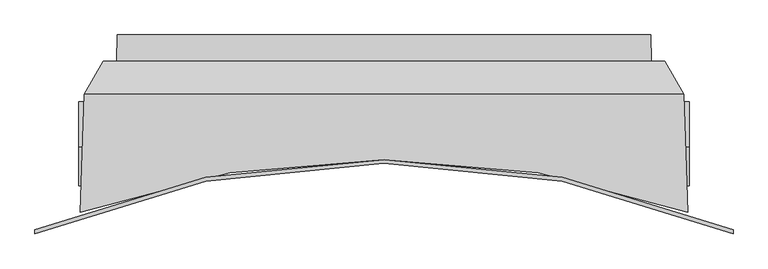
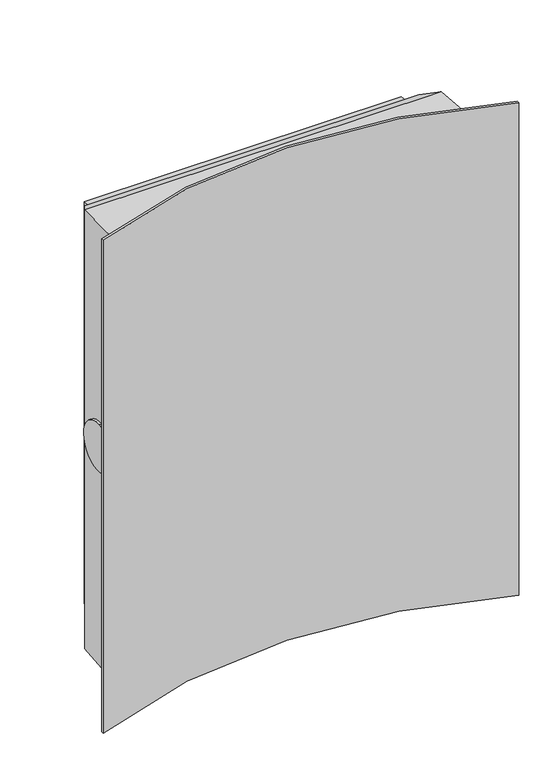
"""IFC4 building model written with IfcOpenShell, lengths in millimetres: proxy geometry, SU.900x1200ManwayRiserAdapter.3000."""

from ifc_helpers import new_model, si_unit, frame, origin, place, context, project, spatial, polyline, circle_curve, ellipse_curve, source, transform, mapped, element, save
from ifc_brep_helpers import plane_surface, cylinder_surface, revolved_surface, advanced_brep


def generic_models_ff2e7f39(model_context):
    return source(origin(), model_context, "Body", "AdvancedBrep", [
        advanced_brep(
        [(498.8644366, -174.4226099, -69.7774514), (506.0, -174.4226099, -69.7774514), (506.0, -185.5773901, 69.7774514), (499.2539702, -185.5773901, 69.7774514), (-506.0, -174.4226099, -69.7774514), (-498.8644366, -174.4226099, -69.7774514), (-499.2539702, -185.5773901, 69.7774514), (-506.0, -185.5773901, 69.7774514), (-496.206021, -98.2955463, -646.206021), (-503.0244223, -293.5490136, -653.0244223), (-503.0244223, -293.5490136, 653.0244223), (-496.206021, -98.2955463, 646.206021), (-496.6147495, -110.0, 0.0), (503.0244223, -293.5490136, -653.0244223), (496.206021, -98.2955463, -646.206021), (496.206021, -98.2955463, 646.206021), (503.0244223, -293.5490136, 653.0244223), (496.6147495, -110.0, 0.0), (578.2496957, -322.6277595, -725.0), (-578.2496957, -322.6277595, -725.0), (-578.2496957, -322.6277595, 725.0), (578.2496957, -322.6277595, 725.0), (-464.8584727, -44.0, -614.8584727), (464.8584727, -44.0, -614.8584727), (464.8584727, -44.0, 614.8584727), (-464.8584727, -44.0, 614.8584727), (443.0401711, -44.0, -593.0401711), (443.0401711, -44.0, 593.0401711), (-443.0401711, -44.0, 593.0401711), (-443.0401711, -44.0, -593.0401711), (441.5036573, 0.0, 591.5036573), (441.5036573, 0.0, -591.5036573), (-441.5036573, 0.0, -591.5036573), (-441.5036573, 0.0, 591.5036573), (578.2496957, -329.1326398, -725.0), (578.2496957, -329.1326398, 725.0), (-578.2496957, -329.1326398, 725.0), (-578.2496957, -329.1326398, -725.0)],
        [
            (0, 1),
            (1, 2, circle_curve(frame((506.0, -180.0, 0.0), z_axis=(-1.0, 0.0, 0.0), x_axis=(0.0, 0.07967700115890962, -0.99682073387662)), 70.0)),
            (2, 3),
            (3, 0, ellipse_curve(frame((499.0592034, -180.0, 0.0), z_axis=(0.9993908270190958, 0.03489949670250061, 0.0), x_axis=(0.03489949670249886, -0.9993908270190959, 0.0)), 70.0426681, 70.0)),
            (4, 5),
            (5, 6, ellipse_curve(frame((-499.0592034, -180.0, 0.0), z_axis=(-0.9993908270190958, 0.034899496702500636, 0.0), x_axis=(0.03489949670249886, 0.9993908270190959, 0.0)), 70.0426681, 70.0)),
            (6, 7),
            (7, 4, circle_curve(frame((-506.0, -180.0, 0.0), z_axis=(1.0, 0.0, 0.0), x_axis=(0.0, 0.07967700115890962, -0.99682073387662)), 70.0)),
            (8, 9),
            (9, 10),
            (10, 11),
            (11, 8),
            (5, 12, ellipse_curve(frame((-499.0592034, -180.0, 0.0), z_axis=(0.9993908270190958, -0.034899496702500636, 0.0), x_axis=(0.03489949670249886, 0.9993908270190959, 0.0)), 70.0426681, 70.0)),
            (12, 6, ellipse_curve(frame((-499.0592034, -180.0, 0.0), z_axis=(0.9993908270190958, -0.034899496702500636, 0.0), x_axis=(0.03489949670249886, 0.9993908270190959, 0.0)), 70.0426681, 70.0)),
            (4, 7, circle_curve(frame((-506.0, -180.0, 0.0), z_axis=(1.0, 0.0, 0.0), x_axis=(0.0, 0.07967700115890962, -0.99682073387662)), 70.0)),
            (13, 14),
            (14, 15),
            (15, 16),
            (16, 13),
            (17, 0, ellipse_curve(frame((499.0592034, -180.0, 0.0), z_axis=(-0.9993908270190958, -0.03489949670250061, 0.0), x_axis=(0.03489949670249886, -0.9993908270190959, 0.0)), 70.0426681, 70.0)),
            (3, 17, ellipse_curve(frame((499.0592034, -180.0, 0.0), z_axis=(-0.9993908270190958, -0.03489949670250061, 0.0), x_axis=(0.03489949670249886, -0.9993908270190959, 0.0)), 70.0426681, 70.0)),
            (2, 1, circle_curve(frame((506.0, -180.0, 0.0), z_axis=(-1.0, 0.0, 0.0), x_axis=(0.0, 0.07967700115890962, -0.99682073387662)), 70.0)),
            (13, 9, ellipse_curve(frame((0.0, -1706.6896402, -702.3723804), z_axis=(0.0, -0.034899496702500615, 0.9993908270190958), x_axis=(0.0, 0.9993908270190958, 0.03489949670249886)), 1500.9143164, 1500.0)),
            (8, 14),
            (15, 11),
            (10, 16, ellipse_curve(frame((0.0, -1706.6896402, 702.3723804), z_axis=(0.0, -0.03489949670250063, -0.9993908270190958), x_axis=(0.0, -0.9993908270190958, 0.034899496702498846)), 1500.9143164, 1500.0)),
            (18, 19, circle_curve(frame((0.0, -1706.6896402, -725.0), z_axis=(0.0, 0.0, 1.0), x_axis=(0.38549979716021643, 0.9227079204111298, 0.0)), 1500.0)),
            (19, 20),
            (20, 21, circle_curve(frame((0.0, -1706.6896402, 725.0), z_axis=(0.0, 0.0, -1.0), x_axis=(0.38549979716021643, 0.9227079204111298, 0.0)), 1500.0)),
            (21, 18),
            (8, 22),
            (22, 23),
            (23, 14),
            (23, 24),
            (24, 15),
            (22, 25),
            (25, 24),
            (26, 27),
            (27, 28),
            (28, 29),
            (29, 26),
            (25, 11),
            (30, 31),
            (31, 32),
            (32, 33),
            (33, 30),
            (30, 27),
            (26, 31),
            (29, 32),
            (33, 28),
            (34, 35),
            (35, 36, circle_curve(frame((0.0, -1706.6896402, 725.0), z_axis=(0.0, 0.0, 1.0), x_axis=(-0.3870479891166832, -0.9220595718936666, 0.0)), 1494.0)),
            (36, 37),
            (37, 34, circle_curve(frame((0.0, -1706.6896402, -725.0), z_axis=(0.0, 0.0, -1.0), x_axis=(-0.3870479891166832, -0.9220595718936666, 0.0)), 1494.0)),
            (34, 18),
            (21, 35),
            (19, 37),
            (36, 20),
        ],
        [
            cylinder_surface(frame((0.0, -180.0, 0.0), z_axis=(1.0, 0.0, 0.0), x_axis=(0.0, 0.07967700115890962, -0.99682073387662)), 70.0),
            plane_surface(frame((-496.206021, -98.2955463, -541.5), z_axis=(-0.9993908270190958, 0.034899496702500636, 0.0), x_axis=(-0.034899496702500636, -0.9993908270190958, 0.0))),
            plane_surface(frame((496.206021, -98.2955463, 541.5), z_axis=(0.9993908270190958, 0.03489949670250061, 0.0), x_axis=(0.03489949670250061, -0.9993908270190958, 0.0))),
            plane_surface(frame((506.0, -205.0, 0.0), z_axis=(1.0, 0.0, 0.0), x_axis=(0.0, 0.0, -1.0))),
            plane_surface(frame((-506.0, -205.0, 0.0), z_axis=(-1.0, 0.0, 0.0), x_axis=(0.0, 0.0, -1.0))),
            plane_surface(frame((391.5, -98.2955463, -646.206021), z_axis=(0.0, 0.034899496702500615, -0.9993908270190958), x_axis=(0.0, -0.9993908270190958, -0.034899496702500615))),
            plane_surface(frame((-391.5, -98.2955463, 646.206021), z_axis=(0.0, 0.03489949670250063, 0.9993908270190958), x_axis=(0.0, -0.9993908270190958, 0.03489949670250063))),
            cylinder_surface(frame((0.0, -1706.6896402, 0.0), z_axis=(0.0, 0.0, 0.9999999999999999), x_axis=(0.38549979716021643, 0.9227079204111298, 0.0)), 1500.0),
            plane_surface(frame((391.5, -44.0, -614.8584727), z_axis=(0.0, 0.49999999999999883, -0.8660254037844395), x_axis=(0.0, -0.8660254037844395, -0.49999999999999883))),
            plane_surface(frame((464.8584727, -44.0, 541.5), z_axis=(0.8660254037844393, 0.49999999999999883, 0.0), x_axis=(0.49999999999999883, -0.8660254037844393, 0.0))),
            plane_surface(frame((391.5, -44.0, -593.0401711), z_axis=(0.0, 1.0, 0.0), x_axis=(0.0, 0.0, -1.0))),
            plane_surface(frame((-391.5, -44.0, 614.8584727), z_axis=(0.0, 0.49999999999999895, 0.8660254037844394), x_axis=(0.0, -0.8660254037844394, 0.49999999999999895))),
            plane_surface(frame((-464.8584727, -44.0, -541.5), z_axis=(-0.8660254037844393, 0.49999999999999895, 0.0), x_axis=(-0.49999999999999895, -0.8660254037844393, 0.0))),
            plane_surface(frame((391.5, 0.0, -585.5), z_axis=(0.0, 1.0, 0.0), x_axis=(0.0, 0.0, -1.0))),
            plane_surface(frame((441.5036573, 0.0, 541.5), z_axis=(0.999390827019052, 0.03489949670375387, 0.0), x_axis=(0.03489949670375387, -0.999390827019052, 0.0))),
            plane_surface(frame((391.5, 0.0, -591.5036573), z_axis=(0.0, 0.03489949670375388, -0.999390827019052), x_axis=(0.0, -0.999390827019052, -0.03489949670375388))),
            plane_surface(frame((-391.5, 0.0, 591.5036573), z_axis=(0.0, 0.03489949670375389, 0.999390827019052), x_axis=(0.0, -0.999390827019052, 0.03489949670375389))),
            plane_surface(frame((-441.5036573, 0.0, -541.5), z_axis=(-0.999390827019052, 0.0348994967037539, 0.0), x_axis=(-0.0348994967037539, -0.999390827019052, 0.0))),
            revolved_surface(polyline([(-578.2496957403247, -3084.246640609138, 724.9999999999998), (-578.2496957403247, -3084.246640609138, -724.9999999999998)]), (0.0, -1706.6896402, 0.0), (0.0, 0.0, 0.9999999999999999)),
            plane_surface(frame((578.2496957, -329.1326398, 0.0), z_axis=(1.0, 0.0, 0.0), x_axis=(0.0, 1.0, 0.0))),
            plane_surface(frame((-578.2496957, -322.6277595, 0.0), z_axis=(-1.0, 0.0, 0.0), x_axis=(0.0, -1.0, 0.0))),
            plane_surface(frame((0.0, -267.91114, 725.0), z_axis=(0.0, 0.0, 1.0), x_axis=(1.0, 0.0, 0.0))),
            plane_surface(frame((0.0, -267.91114, -725.0), z_axis=(0.0, 0.0, -1.0), x_axis=(1.0, 0.0, 0.0))),
        ],
        [
            (0, [[1, 2, 3, 4]]),
            (0, [[5, 6, 7, 8]]),
            (1, [[9, 10, 11, 12], [13, 14, -6]]),
            (0, [[-5, 15, -7, -14, -13]]),
            (2, [[16, 17, 18, 19], [20, -4, 21]]),
            (0, [[-1, -20, -21, -3, 22]]),
            (3, [[-2, -22]]),
            (4, [[-15, -8]]),
            (5, [[-16, 23, -9, 24]]),
            (6, [[-18, 25, -11, 26]]),
            (7, [[27, 28, 29, 30], [-23, -19, -26, -10]]),
            (8, [[-24, 31, 32, 33]]),
            (9, [[-17, -33, 34, 35]]),
            (10, [[-32, 36, 37, -34], [38, 39, 40, 41]]),
            (11, [[-25, -35, -37, 42]]),
            (12, [[-12, -42, -36, -31]]),
            (13, [[43, 44, 45, 46]]),
            (14, [[-43, 47, -38, 48]]),
            (15, [[-48, -41, 49, -44]]),
            (16, [[-46, 50, -39, -47]]),
            (17, [[-45, -49, -40, -50]]),
            (18, [[51, 52, 53, 54]]),
            (19, [[-51, 55, -30, 56]]),
            (20, [[-28, 57, -53, 58]]),
            (21, [[-56, -29, -58, -52]]),
            (22, [[-57, -27, -55, -54]]),
        ],
    ),
    ])


if __name__ == "__main__":
    model = new_model("IFC4")
    model_context = context("Model", 3, world=origin())
    ifc_project = project(units=[si_unit("LENGTHUNIT", "METRE", prefix="MILLI")], contexts=[model_context])
    site = spatial("IfcSite", under=ifc_project)
    building = spatial("IfcBuilding", under=site)
    placement = place(None, origin())
    generic_models_shape = generic_models_ff2e7f39(model_context)
    element("IfcBuildingElementProxy", 1, Name="SU.900x1200ManwayRiserAdapter.3000", ObjectType="SU.900x1200ManwayRiserAdapter.3000", at=placement, inside=building, context=model_context, shape_type="MappedRepresentation", body=[
        mapped(generic_models_shape, transform((0.0, 0.0, 0.0), x_axis=(1.0, 0.0, 0.0), y_axis=(0.0, 1.0, 0.0), z_axis=(0.0, 0.0, 1.0))),
    ])
    save(model, "model.ifc")
